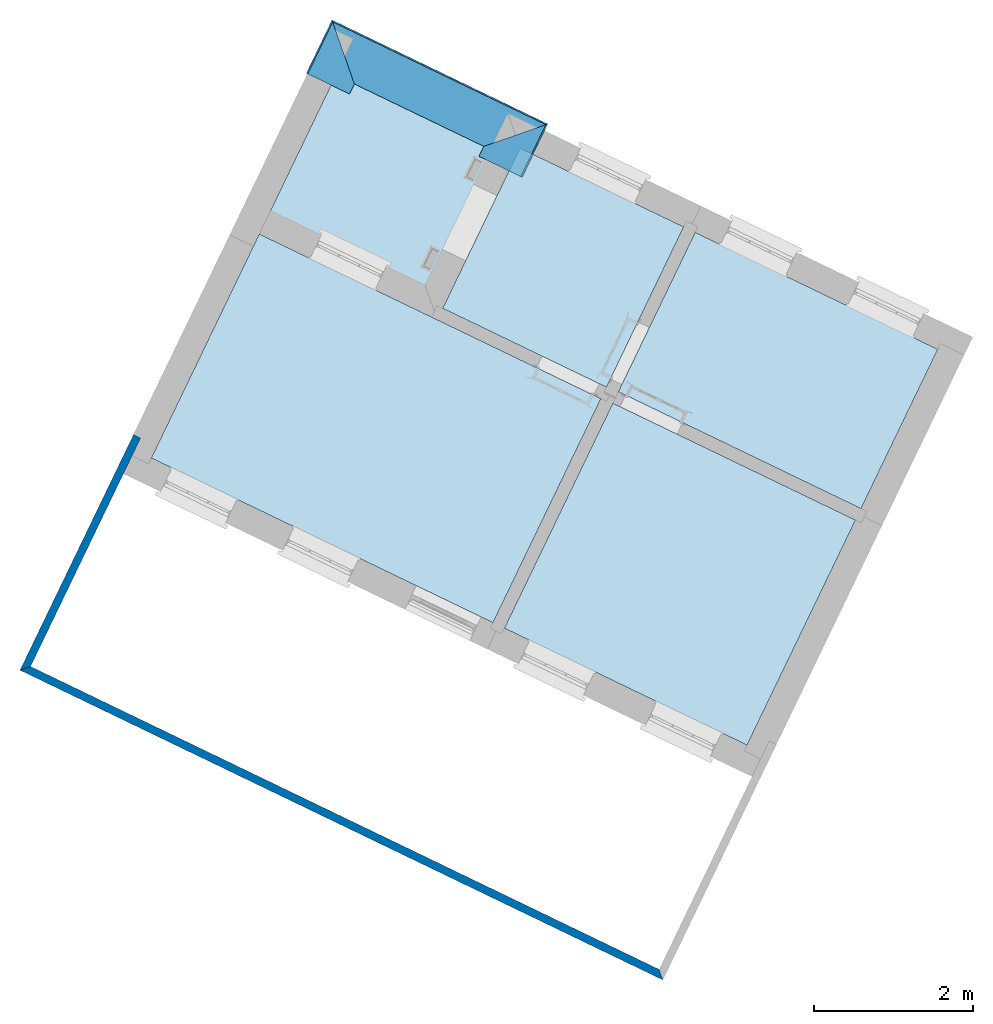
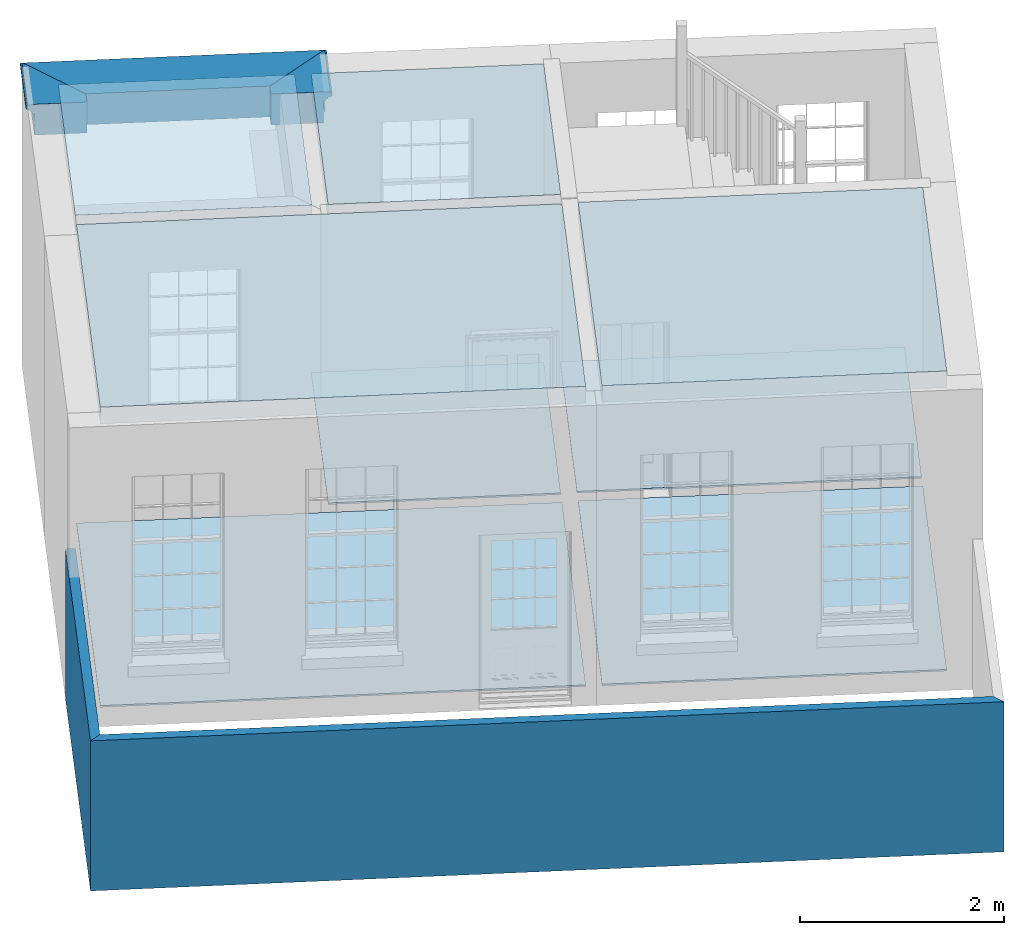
# One storey, part 1 of 6: 8 slabs, 3 beams, 2 walls.
"""IFC4 building model written with IfcOpenShell, lengths in metres."""

from ifc_helpers import new_model, si_unit, frame, origin_with_axes, place, context, subcontext, project, spatial, polyline, outline, extrude, clip, halfspace, material, layer, layer_set, layer_usage, material_profile, profile_set, profile_usage, type_object, element, save


model = new_model("IFC4")

# Units and contexts
model_context = context("Model", 3, world=origin_with_axes())
body_context = subcontext(model_context, "Body", "Model", "MODEL_VIEW")
ifc_project = project(units=[si_unit("PLANEANGLEUNIT", "RADIAN"), si_unit("MASSUNIT", "GRAM", prefix="KILO"), si_unit("FORCEUNIT", "NEWTON", prefix="KILO"), si_unit("LENGTHUNIT", "METRE"), si_unit("AREAUNIT", "SQUARE_METRE"), si_unit("VOLUMEUNIT", "CUBIC_METRE")], contexts=[model_context, model_context])

# Sites, building, storey
site_1_placement = place(None, origin_with_axes())
site_1 = spatial("IfcSite", under=ifc_project, at=site_1_placement, Name="Tamar")
site_2_placement = place(site_1_placement, origin_with_axes())
site_2 = spatial("IfcSite", under=site_1, at=site_2_placement, Name="Site plot-1", CompositionType="ELEMENT")
building_placement = place(None, origin_with_axes())
building = spatial("IfcBuilding", under=site_2, at=building_placement, Name="Building plot-1", CompositionType="ELEMENT")
storey_placement = place(None, frame((0.0, 0.0, 26.0), z_axis=(0.0, 0.0, 1.0), x_axis=(1.0, 0.0, 0.0)))
storey = spatial("IfcBuildingStorey", under=building, at=storey_placement, Name="plot-1 0", CompositionType="ELEMENT", Elevation=26.0)

# Beams
ifc_material_profile = material_profile(None, outline(polyline([(-0.26, 0.0), (-0.26, -0.37), (0.26, -0.37), (0.26, -0.235), (0.275, -0.235), (0.275, -0.2), (0.26, -0.2), (0.26, -0.11), (0.275, -0.11), (0.278, -0.098), (0.284, -0.089), (0.293, -0.083), (0.305, -0.08), (0.305, -0.065), (0.315, -0.065), (0.326, -0.063), (0.336, -0.056), (0.343, -0.047), (0.345, -0.035), (0.343, -0.023), (0.336, -0.014), (0.326, -0.007), (0.315, -0.005), (0.26, 0.0), (-0.26, 0.0)])))
ifc_profile_set = profile_set([ifc_material_profile])
ifc_profile_usage_1 = profile_usage(ifc_profile_set)
beam_type = type_object("IfcBeamType", Name="external beam_0", PredefinedType="NOTDEFINED", material=ifc_profile_set)
beam_1_placement = place(storey_placement, frame((224.454676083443, 299.716940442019, 3.6), z_axis=(-0.434117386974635, -0.900856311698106, 0.0), x_axis=(0.900856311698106, -0.434117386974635, 0.0)))
element("IfcBeam", 1, at=beam_1_placement, inside=storey, type_object=beam_type, material=ifc_profile_usage_1, Name="external beam_0", context=body_context, shape_type="Clipping", body=[
    clip(clip(extrude(outline(polyline([(-0.26, 0.0), (-0.26, -0.37), (0.26, -0.37), (0.26, -0.235), (0.275, -0.235), (0.275, -0.2), (0.26, -0.2), (0.26, -0.11), (0.275, -0.11), (0.278, -0.098), (0.284, -0.089), (0.293, -0.083), (0.305, -0.08), (0.305, -0.065), (0.315, -0.065), (0.326, -0.063), (0.336, -0.056), (0.343, -0.047), (0.345, -0.035), (0.343, -0.023), (0.336, -0.014), (0.326, -0.007), (0.315, -0.005), (0.26, 0.0), (-0.26, 0.0)])), origin_with_axes(), (0.0, 0.0, 1.0), 2.40000000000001), halfspace(frame((0.0, 0.0, 1.40000000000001), z_axis=(2.52518526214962e-14, 0.0, -1.0), x_axis=(0.0, 1.0, 0.0)), True)), halfspace(frame((0.0, 0.0, 1.0), z_axis=(-0.707106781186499, 0.0, -0.707106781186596), x_axis=(0.0, 1.0, 0.0)), False)),
])
ifc_profile_usage_2 = profile_usage(ifc_profile_set)
beam_2_placement = place(storey_placement, frame((221.019948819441, 300.262060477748, 3.6), z_axis=(0.900856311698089, -0.434117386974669, 0.0), x_axis=(0.434117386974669, 0.900856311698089, 0.0)))
element("IfcBeam", 2, at=beam_2_placement, inside=storey, type_object=beam_type, material=ifc_profile_usage_2, Name="external beam_0", context=body_context, shape_type="Clipping", body=[
    clip(clip(extrude(outline(polyline([(-0.26, 0.0), (-0.26, -0.37), (0.26, -0.37), (0.26, -0.235), (0.275, -0.235), (0.275, -0.2), (0.26, -0.2), (0.26, -0.11), (0.275, -0.11), (0.278, -0.098), (0.284, -0.089), (0.293, -0.083), (0.305, -0.08), (0.305, -0.065), (0.315, -0.065), (0.326, -0.063), (0.336, -0.056), (0.343, -0.047), (0.345, -0.035), (0.343, -0.023), (0.336, -0.014), (0.326, -0.007), (0.315, -0.005), (0.26, 0.0), (-0.26, 0.0)])), origin_with_axes(), (0.0, 0.0, 1.0), 4.33084182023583), halfspace(frame((0.0, 0.0, 3.33084182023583), z_axis=(0.707106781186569, 0.0, -0.707106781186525), x_axis=(0.0, 1.0, 0.0)), True)), halfspace(frame((0.0, 0.0, 1.0), z_axis=(-0.707106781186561, 0.0, -0.707106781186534), x_axis=(0.0, 1.0, 0.0)), False)),
])
ifc_profile_usage_3 = profile_usage(ifc_profile_set)
beam_3_placement = place(storey_placement, frame((221.313040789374, 298.566744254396, 3.6), z_axis=(0.434117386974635, 0.900856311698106, 0.0), x_axis=(-0.900856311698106, 0.434117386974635, 0.0)))
element("IfcBeam", 3, at=beam_3_placement, inside=storey, type_object=beam_type, material=ifc_profile_usage_3, Name="external beam_0", context=body_context, shape_type="Clipping", body=[
    clip(clip(extrude(outline(polyline([(-0.26, 0.0), (-0.26, -0.37), (0.26, -0.37), (0.26, -0.235), (0.275, -0.235), (0.275, -0.2), (0.26, -0.2), (0.26, -0.11), (0.275, -0.11), (0.278, -0.098), (0.284, -0.089), (0.293, -0.083), (0.305, -0.08), (0.305, -0.065), (0.315, -0.065), (0.326, -0.063), (0.336, -0.056), (0.343, -0.047), (0.345, -0.035), (0.343, -0.023), (0.336, -0.014), (0.326, -0.007), (0.315, -0.005), (0.26, 0.0), (-0.26, 0.0)])), origin_with_axes(), (0.0, 0.0, 1.0), 2.40000000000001), halfspace(frame((0.0, 0.0, 1.40000000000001), z_axis=(0.707106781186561, 0.0, -0.707106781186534), x_axis=(0.0, 1.0, 0.0)), True)), halfspace(frame((0.0, 0.0, 1.0), z_axis=(2.56959418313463e-14, 0.0, -1.0), x_axis=(0.0, 1.0, 0.0)), False)),
])

# Slabs
slab_1_placement = place(storey_placement, frame((226.195115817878, 297.679373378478, 3.4)))
element("IfcSlab", 4, at=slab_1_placement, inside=storey, Name="My Slab", ObjectType="Slab", PredefinedType="FLOOR", context=body_context, shape_type="SweptSolid", body=[
    extrude(outline(polyline([(0.0, 0.0), (-2.06514950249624, 0.995183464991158), (-3.03954127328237, -1.02682026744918), (-0.97439177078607, -2.02200373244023), (0.0, 0.0)])), origin_with_axes(), (0.0, 0.0, 1.0), 0.2),
])
slab_2_placement = place(storey_placement, frame((226.195115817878, 297.679373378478, 0.0)))
element("IfcSlab", 5, at=slab_2_placement, inside=storey, Name="My Slab", ObjectType="Slab", PredefinedType="FLOOR", context=body_context, shape_type="SweptSolid", body=[
    extrude(outline(polyline([(0.0, 0.0), (-2.06514950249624, 0.995183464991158), (-3.03954127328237, -1.02682026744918), (-0.97439177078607, -2.02200373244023), (0.0, 0.0)])), origin_with_axes(), (0.0, 0.0, 1.0), 0.02),
])
slab_3_placement = place(storey_placement, frame((220.842225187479, 297.589733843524, 3.4)))
element("IfcSlab", 6, at=slab_3_placement, inside=storey, Name="My Slab", ObjectType="Slab", PredefinedType="FLOOR", context=body_context, shape_type="SweptSolid", body=[
    extrude(outline(polyline([(0.0, 0.0), (-1.36156561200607, -2.82544540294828), (2.94747446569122, -4.90194661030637), (4.30904007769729, -2.07650120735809), (0.0, 0.0)])), origin_with_axes(), (0.0, 0.0, 1.0), 0.2),
])
slab_4_placement = place(storey_placement, frame((220.842225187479, 297.589733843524, 0.0)))
element("IfcSlab", 7, at=slab_4_placement, inside=storey, Name="My Slab", ObjectType="Slab", PredefinedType="FLOOR", context=body_context, shape_type="SweptSolid", body=[
    extrude(outline(polyline([(0.0, 0.0), (-1.36156561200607, -2.82544540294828), (2.94747446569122, -4.90194661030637), (4.30904007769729, -2.07650120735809), (0.0, 0.0)])), origin_with_axes(), (0.0, 0.0, 1.0), 0.02),
])
slab_5_placement = place(storey_placement, frame((221.886075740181, 299.755874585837, 3.4)))
element("IfcSlab", 8, at=slab_5_placement, inside=storey, Name="My Slab", ObjectType="Slab", PredefinedType="FLOOR", context=body_context, shape_type="SweptSolid", body=[
    extrude(outline(polyline([(0.0, 0.0), (-0.974391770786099, -2.02200373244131), (1.12536179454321, -3.0338626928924), (2.09975356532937, -1.011858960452), (0.0, 0.0)])), origin_with_axes(), (0.0, 0.0, 1.0), 0.2),
])
slab_6_placement = place(storey_placement, frame((226.33925282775, 297.609914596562, 0.0)))
element("IfcSlab", 9, at=slab_6_placement, inside=storey, Name="My Slab", ObjectType="Slab", PredefinedType="FLOOR", context=body_context, shape_type="SweptSolid", body=[
    extrude(outline(polyline([(0.0, 0.0), (-0.968134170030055, -2.00901830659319), (2.09183038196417, -3.48359732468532), (3.05996455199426, -1.47457901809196), (0.0, 0.0)])), origin_with_axes(), (0.0, 0.0, 1.0), 0.02),
])
slab_7_placement = place(storey_placement, frame((225.301659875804, 295.456759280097, 3.4)))
element("IfcSlab", 10, at=slab_7_placement, inside=storey, Name="My Slab", ObjectType="Slab", PredefinedType="FLOOR", context=body_context, shape_type="SweptSolid", body=[
    extrude(outline(polyline([(0.0, 0.0), (-1.36782321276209, -2.83843082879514), (1.69214133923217, -4.31300984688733), (3.05996455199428, -1.47457901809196), (0.0, 0.0)])), origin_with_axes(), (0.0, 0.0, 1.0), 0.2),
])
slab_8_placement = place(storey_placement, frame((225.301659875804, 295.456759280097, 0.0)))
element("IfcSlab", 11, at=slab_8_placement, inside=storey, Name="My Slab", ObjectType="Slab", PredefinedType="FLOOR", context=body_context, shape_type="SweptSolid", body=[
    extrude(outline(polyline([(0.0, 0.0), (-1.36782321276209, -2.83843082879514), (1.69214133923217, -4.31300984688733), (3.05996455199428, -1.47457901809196), (0.0, 0.0)])), origin_with_axes(), (0.0, 0.0, 1.0), 0.02),
])

# Walls
ifc_material = material(Name="Masonry")
ifc_layer = layer(ifc_material, 0.1, ventilated=False)
ifc_layer_set = layer_set([ifc_layer], Name="fence_-0.15_0.25")
ifc_layer_usage = layer_usage(ifc_layer_set, "AXIS2", "POSITIVE", -0.25)
wall_type = type_object("IfcWallType", Name="fence_-0.15_0.25", PredefinedType="SOLIDWALL", material=ifc_layer_set)
wall_1_placement = place(storey_placement, frame((219.373861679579, 294.726949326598, 0.0), z_axis=(0.0, 0.0, 1.0), x_axis=(-0.434117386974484, -0.900856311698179, 0.0)))
element("IfcWall", 12, at=wall_1_placement, inside=storey, type_object=wall_type, material=ifc_layer_usage, Name="fence", context=body_context, shape_type="SweptSolid", body=[
    extrude(outline(polyline([(-0.250000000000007, -0.15000000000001), (-0.250000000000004, -0.250000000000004), (3.04906513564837, -0.249999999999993), (2.94906513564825, -0.149999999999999), (-0.250000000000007, -0.15000000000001)])), origin_with_axes(), (0.0, 0.0, 1.0), 1.8),
])
wall_2_placement = place(storey_placement, frame((218.15873883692, 292.205393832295, 0.0), z_axis=(0.0, 0.0, 1.0), x_axis=(0.900856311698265, -0.434117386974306, 0.0)))
element("IfcWall", 13, at=wall_2_placement, inside=storey, type_object=wall_type, material=ifc_layer_usage, Name="fence", context=body_context, shape_type="SweptSolid", body=[
    extrude(outline(polyline([(-0.15000000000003, -0.150000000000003), (-0.250000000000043, -0.250000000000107), (8.75000000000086, -0.250000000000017), (8.65000000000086, -0.149999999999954), (-0.15000000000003, -0.150000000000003)])), origin_with_axes(), (0.0, 0.0, 1.0), 1.8),
])

save(model, "model.ifc")
